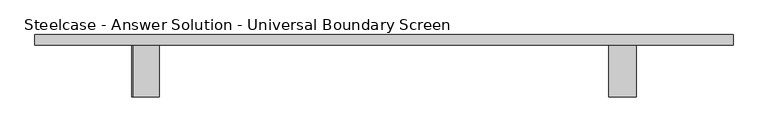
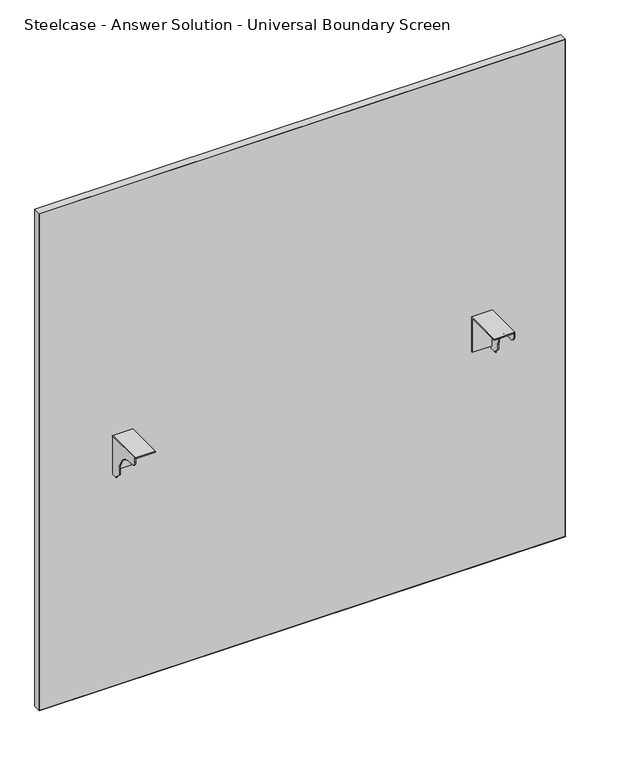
"""IFC4 building model written with IfcOpenShell, lengths in millimetres: furniture geometry, Steelcase - Answer Solution - Universal Boundary Screen : 54H x 54W."""

from ifc_helpers import new_model, si_unit, point, frame, frame_2d, origin, place, context, project, spatial, polyline, circle_curve, trimmed, segment, composite_curve, outline, extrude, source, transform, mapped, element, save


def steelcase_answer_solution_universal_boundary_screen_29459461(model_context):
    return source(origin(), model_context, "Body", "SweptSolid", [
        extrude(outline(polyline([(-103.1670434, 689.3558876), (-103.1670434, 692.1499758), (-1.5668826, 692.1499758), (-1.5668826, 595.5029317), (-4.1079736, 595.5029317), (-4.1079736, 689.3558876), (-103.1670434, 689.3558876)])), frame((972.0356574, 0.0, 0.0), z_axis=(1.0, 0.0, 0.0), x_axis=(0.0, 1.0, 0.0)), (0.0, 0.0, 1.0), 53.3444116),
        extrude(outline(composite_curve([segment(polyline([(-103.1670434, 679.2814802), (-103.1670434, 692.1499758), (-1.5668826, 692.1499758), (-1.5668826, 586.9634093), (-19.8232934, 586.9634093), (-19.8232934, 589.7574248), (-32.0458032, 601.9799346), (-32.0458032, 615.7814802)]), True, "CONTINUOUS"), segment(trimmed(circle_curve(frame_2d((-82.8458032, 615.7814802)), 50.8), [point((-32.0458032, 615.7814802))], [point((-82.8458032, 666.5814802))], True, "CARTESIAN"), True, "CONTINUOUS"), segment(polyline([(-82.8458032, 666.5814802), (-90.4670434, 666.5814802)]), True, "CONTINUOUS"), segment(trimmed(circle_curve(frame_2d((-90.4670434, 679.2814802)), 12.7), [point((-90.4670434, 666.5814802))], [point((-103.1670434, 679.2814802))], False, "CARTESIAN"), True, "CONTINUOUS")], self_intersect=False)), frame((1022.8348822, 0.0, 0.0), z_axis=(1.0, 0.0, 0.0), x_axis=(0.0, 1.0, 0.0)), (0.0, 0.0, 1.0), 2.5451868),
        extrude(outline(polyline([(-103.1670434, 689.3558876), (-103.1670434, 692.1499758), (-1.5668826, 692.1499758), (-1.5668826, 595.5029317), (-4.1079736, 595.5029317), (-4.1079736, 689.3558876), (-103.1670434, 689.3558876)])), frame((37.3212831, 0.0, 0.0), z_axis=(1.0, 0.0, 0.0), x_axis=(0.0, 1.0, 0.0)), (0.0, 0.0, 1.0), 50.7992249),
        extrude(outline(composite_curve([segment(polyline([(-103.1670434, 679.2814802), (-103.1670434, 692.1499758), (-1.5668826, 692.1499758), (-1.5668826, 586.9634093), (-19.8232934, 586.9634093), (-19.8232934, 589.7574248), (-32.0458032, 601.9799346), (-32.0458032, 615.7814802)]), True, "CONTINUOUS"), segment(trimmed(circle_curve(frame_2d((-82.8458032, 615.7814802)), 50.8), [point((-32.0458032, 615.7814802))], [point((-82.8458032, 666.5814802))], True, "CARTESIAN"), True, "CONTINUOUS"), segment(polyline([(-82.8458032, 666.5814802), (-90.4670434, 666.5814802)]), True, "CONTINUOUS"), segment(trimmed(circle_curve(frame_2d((-90.4670434, 679.2814802)), 12.7), [point((-90.4670434, 666.5814802))], [point((-103.1670434, 679.2814802))], False, "CARTESIAN"), True, "CONTINUOUS")], self_intersect=False)), frame((34.7760964, 0.0, 0.0), z_axis=(1.0, 0.0, 0.0), x_axis=(0.0, 1.0, 0.0)), (0.0, 0.0, 1.0), 2.5451868),
        extrude(outline(polyline([(-154.7313286, 18.9055112), (1214.8874939, 18.9055112), (1214.8874939, -1.5668826), (-154.7313286, -1.5668826), (-154.7313286, 18.9055112)])), frame((0.0, 0.0, 1.016), z_axis=(0.0, 0.0, 1.0), x_axis=(1.0, 0.0, 0.0)), (0.0, 0.0, 1.0), 1369.5914249),
        extrude(outline(polyline([(1371.6, 1215.880069), (1371.6, -155.7239036), (0.0, -155.7239036), (0.0, 1215.880069), (1371.6, 1215.880069)]), holes=[polyline([(1370.6074249, 1214.8874939), (1.016, 1214.8874939), (1.016, -154.7313286), (1370.6074249, -154.7313286), (1370.6074249, 1214.8874939)])]), frame((0.0, -1.5668826, 0.0), z_axis=(0.0, 1.0, 0.0), x_axis=(0.0, 0.0, 1.0)), (0.0, 0.0, 1.0), 20.4723938),
    ])


if __name__ == "__main__":
    model = new_model("IFC4")
    model_context = context("Model", 3, world=origin())
    ifc_project = project(units=[si_unit("LENGTHUNIT", "METRE", prefix="MILLI")], contexts=[model_context])
    site = spatial("IfcSite", under=ifc_project)
    building = spatial("IfcBuilding", under=site)
    placement = place(None, origin())
    steelcase_answer_solution_universal_boundary_screen_shape = steelcase_answer_solution_universal_boundary_screen_29459461(model_context)
    element("IfcFurniture", 1, ObjectType="Steelcase - Answer Solution - Universal Boundary Screen : 54H x 54W", at=placement, inside=building, context=model_context, shape_type="MappedRepresentation", body=[
        mapped(steelcase_answer_solution_universal_boundary_screen_shape, transform((0.0, 0.0, 0.0), x_axis=(1.0, 0.0, 0.0), y_axis=(0.0, 1.0, 0.0), z_axis=(0.0, 0.0, 1.0))),
    ])
    save(model, "model.ifc")
